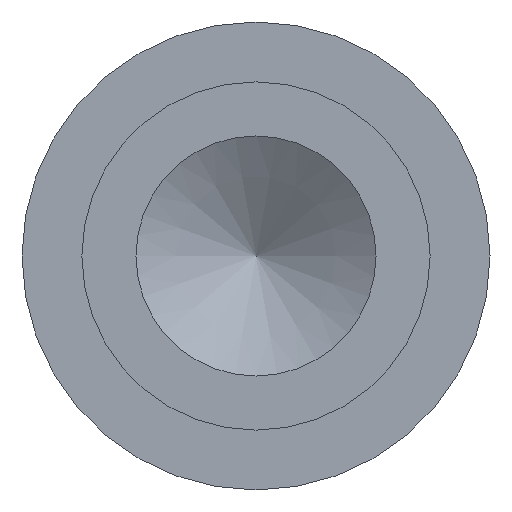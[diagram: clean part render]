
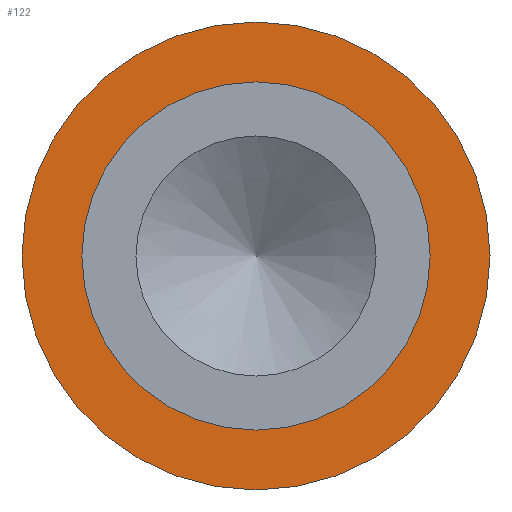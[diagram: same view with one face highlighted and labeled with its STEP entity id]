
A CAD part, left-side view. The second image highlights one B-rep face of the part: STEP entity #122.
In plain terms, the highlighted planar face has unit normal (-1, 0, 0).
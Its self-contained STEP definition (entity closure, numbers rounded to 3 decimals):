
#15=PLANE($,#145);
#24=FACE_BOUND($,#57,.T.);
#40=FACE_OUTER_BOUND($,#56,.T.);
#56=EDGE_LOOP($,(#106));
#57=EDGE_LOOP($,(#107));
#69=CIRCLE($,#143,0.737);
#71=CIRCLE($,#146,0.99);
#79=VERTEX_POINT($,#216);
#81=VERTEX_POINT($,#221);
#89=EDGE_CURVE($,#79,#79,#69,.T.);
#91=EDGE_CURVE($,#81,#81,#71,.T.);
#106=ORIENTED_EDGE($,*,*,#91,.F.);
#107=ORIENTED_EDGE($,*,*,#89,.T.);
#122=ADVANCED_FACE($,(#40,#24),#15,.T.);
#143=AXIS2_PLACEMENT_3D($,#217,#181,#182);
#145=AXIS2_PLACEMENT_3D($,#220,#185,#186);
#146=AXIS2_PLACEMENT_3D($,#222,#187,#188);
#181=DIRECTION('center_axis',(1.,0.,0.));
#182=DIRECTION('ref_axis',(0.,1.,0.));
#185=DIRECTION('center_axis',(-1.,0.,0.));
#186=DIRECTION('ref_axis',(0.,0.,1.));
#187=DIRECTION('center_axis',(1.,0.,0.));
#188=DIRECTION('ref_axis',(0.,1.,0.));
#216=CARTESIAN_POINT('',(1.575,0.737,0.));
#217=CARTESIAN_POINT('Origin',(1.575,0.,0.));
#220=CARTESIAN_POINT('Origin',(1.575,0.863,0.));
#221=CARTESIAN_POINT('',(1.575,0.99,0.));
#222=CARTESIAN_POINT('Origin',(1.575,0.,0.));
